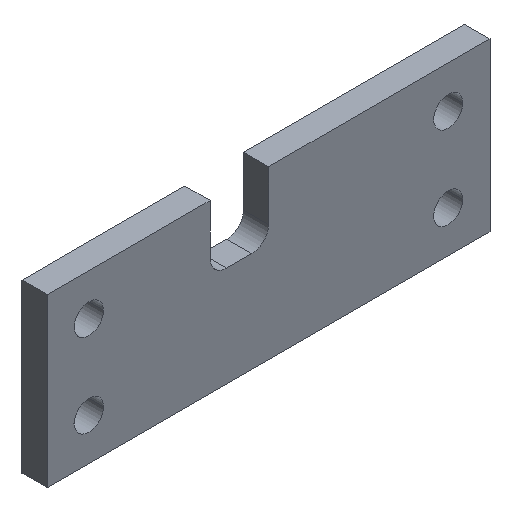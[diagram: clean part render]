
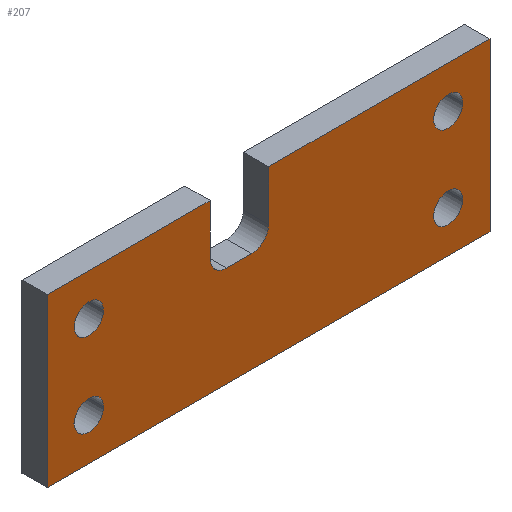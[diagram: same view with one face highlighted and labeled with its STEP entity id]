
A CAD part, isometric view. The second image highlights one B-rep face of the part: STEP entity #207.
In plain terms, the highlighted planar face has unit normal (0, -1, 0).
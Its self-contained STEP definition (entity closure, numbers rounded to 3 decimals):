
#35=AXIS2_PLACEMENT_3D('Plane Axis2P3D',#32,#33,#34) ;
#39=AXIS2_PLACEMENT_3D('Circle Axis2P3D',#37,#38,$) ;
#111=AXIS2_PLACEMENT_3D('Circle Axis2P3D',#109,#110,$) ;
#137=AXIS2_PLACEMENT_3D('Circle Axis2P3D',#135,#136,$) ;
#146=AXIS2_PLACEMENT_3D('Circle Axis2P3D',#144,#145,$) ;
#155=AXIS2_PLACEMENT_3D('Circle Axis2P3D',#153,#154,$) ;
#164=AXIS2_PLACEMENT_3D('Circle Axis2P3D',#162,#163,$) ;
#173=AXIS2_PLACEMENT_3D('Circle Axis2P3D',#171,#172,$) ;
#182=AXIS2_PLACEMENT_3D('Circle Axis2P3D',#180,#181,$) ;
#191=AXIS2_PLACEMENT_3D('Circle Axis2P3D',#189,#190,$) ;
#200=AXIS2_PLACEMENT_3D('Circle Axis2P3D',#198,#199,$) ;
#32=CARTESIAN_POINT('Axis2P3D Location',(0.,39.6,0.)) ;
#37=CARTESIAN_POINT('Axis2P3D Location',(-21.5,39.6,14.)) ;
#41=CARTESIAN_POINT('Vertex',(-21.5,39.6,12.)) ;
#43=CARTESIAN_POINT('Vertex',(-23.5,39.6,14.)) ;
#46=CARTESIAN_POINT('Line Origine',(-23.5,39.6,17.)) ;
#50=CARTESIAN_POINT('Vertex',(-23.5,39.6,20.)) ;
#53=CARTESIAN_POINT('Line Origine',(-27.25,39.6,20.)) ;
#57=CARTESIAN_POINT('Vertex',(-31.,39.6,20.)) ;
#60=CARTESIAN_POINT('Line Origine',(-37.,39.6,20.)) ;
#64=CARTESIAN_POINT('Vertex',(-43.,39.6,20.)) ;
#67=CARTESIAN_POINT('Line Origine',(-43.,39.6,10.)) ;
#71=CARTESIAN_POINT('Vertex',(-43.,39.6,0.)) ;
#74=CARTESIAN_POINT('Line Origine',(-16.5,39.6,0.)) ;
#78=CARTESIAN_POINT('Vertex',(10.,39.6,0.)) ;
#81=CARTESIAN_POINT('Line Origine',(10.,39.6,10.)) ;
#85=CARTESIAN_POINT('Vertex',(10.,39.6,20.)) ;
#88=CARTESIAN_POINT('Line Origine',(0.5,39.6,20.)) ;
#92=CARTESIAN_POINT('Vertex',(-9.,39.6,20.)) ;
#95=CARTESIAN_POINT('Line Origine',(-12.75,39.6,20.)) ;
#99=CARTESIAN_POINT('Vertex',(-16.5,39.6,20.)) ;
#102=CARTESIAN_POINT('Line Origine',(-16.5,39.6,17.)) ;
#106=CARTESIAN_POINT('Vertex',(-16.5,39.6,14.)) ;
#109=CARTESIAN_POINT('Axis2P3D Location',(-18.5,39.6,14.)) ;
#113=CARTESIAN_POINT('Vertex',(-18.5,39.6,12.)) ;
#116=CARTESIAN_POINT('Line Origine',(-20.,39.6,12.)) ;
#135=CARTESIAN_POINT('Axis2P3D Location',(-38.,39.6,15.)) ;
#139=CARTESIAN_POINT('Vertex',(-36.25,39.6,15.)) ;
#141=CARTESIAN_POINT('Vertex',(-39.75,39.6,15.)) ;
#144=CARTESIAN_POINT('Axis2P3D Location',(-38.,39.6,15.)) ;
#153=CARTESIAN_POINT('Axis2P3D Location',(5.,39.6,5.)) ;
#157=CARTESIAN_POINT('Vertex',(6.75,39.6,5.)) ;
#159=CARTESIAN_POINT('Vertex',(3.25,39.6,5.)) ;
#162=CARTESIAN_POINT('Axis2P3D Location',(5.,39.6,5.)) ;
#171=CARTESIAN_POINT('Axis2P3D Location',(-38.,39.6,5.)) ;
#175=CARTESIAN_POINT('Vertex',(-39.75,39.6,5.)) ;
#177=CARTESIAN_POINT('Vertex',(-36.25,39.6,5.)) ;
#180=CARTESIAN_POINT('Axis2P3D Location',(-38.,39.6,5.)) ;
#189=CARTESIAN_POINT('Axis2P3D Location',(5.,39.6,15.)) ;
#193=CARTESIAN_POINT('Vertex',(6.75,39.6,15.)) ;
#195=CARTESIAN_POINT('Vertex',(3.25,39.6,15.)) ;
#198=CARTESIAN_POINT('Axis2P3D Location',(5.,39.6,15.)) ;
#33=DIRECTION('Axis2P3D Direction',(0.,-1.,0.)) ;
#34=DIRECTION('Axis2P3D XDirection',(1.,0.,0.)) ;
#38=DIRECTION('Axis2P3D Direction',(0.,-1.,0.)) ;
#47=DIRECTION('Vector Direction',(0.,0.,-1.)) ;
#54=DIRECTION('Vector Direction',(1.,0.,0.)) ;
#61=DIRECTION('Vector Direction',(1.,0.,0.)) ;
#68=DIRECTION('Vector Direction',(0.,0.,-1.)) ;
#75=DIRECTION('Vector Direction',(1.,0.,0.)) ;
#82=DIRECTION('Vector Direction',(0.,0.,-1.)) ;
#89=DIRECTION('Vector Direction',(1.,0.,0.)) ;
#96=DIRECTION('Vector Direction',(1.,0.,0.)) ;
#103=DIRECTION('Vector Direction',(0.,0.,1.)) ;
#110=DIRECTION('Axis2P3D Direction',(0.,-1.,0.)) ;
#117=DIRECTION('Vector Direction',(-1.,0.,0.)) ;
#136=DIRECTION('Axis2P3D Direction',(0.,-1.,0.)) ;
#145=DIRECTION('Axis2P3D Direction',(0.,-1.,0.)) ;
#154=DIRECTION('Axis2P3D Direction',(0.,-1.,0.)) ;
#163=DIRECTION('Axis2P3D Direction',(0.,-1.,0.)) ;
#172=DIRECTION('Axis2P3D Direction',(0.,-1.,0.)) ;
#181=DIRECTION('Axis2P3D Direction',(0.,-1.,0.)) ;
#190=DIRECTION('Axis2P3D Direction',(0.,-1.,0.)) ;
#199=DIRECTION('Axis2P3D Direction',(0.,-1.,0.)) ;
#48=VECTOR('Line Direction',#47,1.) ;
#55=VECTOR('Line Direction',#54,1.) ;
#62=VECTOR('Line Direction',#61,1.) ;
#69=VECTOR('Line Direction',#68,1.) ;
#76=VECTOR('Line Direction',#75,1.) ;
#83=VECTOR('Line Direction',#82,1.) ;
#90=VECTOR('Line Direction',#89,1.) ;
#97=VECTOR('Line Direction',#96,1.) ;
#104=VECTOR('Line Direction',#103,1.) ;
#118=VECTOR('Line Direction',#117,1.) ;
#122=ORIENTED_EDGE('',*,*,#45,.T.) ;
#123=ORIENTED_EDGE('',*,*,#52,.F.) ;
#124=ORIENTED_EDGE('',*,*,#59,.F.) ;
#125=ORIENTED_EDGE('',*,*,#66,.F.) ;
#126=ORIENTED_EDGE('',*,*,#73,.T.) ;
#127=ORIENTED_EDGE('',*,*,#80,.T.) ;
#128=ORIENTED_EDGE('',*,*,#87,.F.) ;
#129=ORIENTED_EDGE('',*,*,#94,.F.) ;
#130=ORIENTED_EDGE('',*,*,#101,.F.) ;
#131=ORIENTED_EDGE('',*,*,#108,.F.) ;
#132=ORIENTED_EDGE('',*,*,#115,.T.) ;
#133=ORIENTED_EDGE('',*,*,#120,.F.) ;
#150=ORIENTED_EDGE('',*,*,#143,.F.) ;
#151=ORIENTED_EDGE('',*,*,#148,.F.) ;
#168=ORIENTED_EDGE('',*,*,#161,.F.) ;
#169=ORIENTED_EDGE('',*,*,#166,.F.) ;
#186=ORIENTED_EDGE('',*,*,#179,.F.) ;
#187=ORIENTED_EDGE('',*,*,#184,.F.) ;
#204=ORIENTED_EDGE('',*,*,#197,.F.) ;
#205=ORIENTED_EDGE('',*,*,#202,.F.) ;
#152=FACE_BOUND('',#149,.T.) ;
#170=FACE_BOUND('',#167,.T.) ;
#188=FACE_BOUND('',#185,.T.) ;
#206=FACE_BOUND('',#203,.T.) ;
#207=ADVANCED_FACE('\X2\96F64EF651E04F554F53\X0\',(#134,#152,#170,#188,#206),#36,.T.) ;
#40=CIRCLE('generated circle',#39,2.) ;
#112=CIRCLE('generated circle',#111,2.) ;
#138=CIRCLE('generated circle',#137,1.75) ;
#147=CIRCLE('generated circle',#146,1.75) ;
#156=CIRCLE('generated circle',#155,1.75) ;
#165=CIRCLE('generated circle',#164,1.75) ;
#174=CIRCLE('generated circle',#173,1.75) ;
#183=CIRCLE('generated circle',#182,1.75) ;
#192=CIRCLE('generated circle',#191,1.75) ;
#201=CIRCLE('generated circle',#200,1.75) ;
#45=EDGE_CURVE('',#42,#44,#40,.F.) ;
#52=EDGE_CURVE('',#51,#44,#49,.T.) ;
#59=EDGE_CURVE('',#58,#51,#56,.T.) ;
#66=EDGE_CURVE('',#65,#58,#63,.T.) ;
#73=EDGE_CURVE('',#65,#72,#70,.T.) ;
#80=EDGE_CURVE('',#72,#79,#77,.T.) ;
#87=EDGE_CURVE('',#86,#79,#84,.T.) ;
#94=EDGE_CURVE('',#93,#86,#91,.T.) ;
#101=EDGE_CURVE('',#100,#93,#98,.T.) ;
#108=EDGE_CURVE('',#107,#100,#105,.T.) ;
#115=EDGE_CURVE('',#107,#114,#112,.F.) ;
#120=EDGE_CURVE('',#42,#114,#119,.F.) ;
#143=EDGE_CURVE('',#140,#142,#138,.T.) ;
#148=EDGE_CURVE('',#142,#140,#147,.T.) ;
#161=EDGE_CURVE('',#158,#160,#156,.T.) ;
#166=EDGE_CURVE('',#160,#158,#165,.T.) ;
#179=EDGE_CURVE('',#176,#178,#174,.T.) ;
#184=EDGE_CURVE('',#178,#176,#183,.T.) ;
#197=EDGE_CURVE('',#194,#196,#192,.T.) ;
#202=EDGE_CURVE('',#196,#194,#201,.T.) ;
#121=EDGE_LOOP('',(#122,#123,#124,#125,#126,#127,#128,#129,#130,#131,#132,#133)) ;
#149=EDGE_LOOP('',(#150,#151)) ;
#167=EDGE_LOOP('',(#168,#169)) ;
#185=EDGE_LOOP('',(#186,#187)) ;
#203=EDGE_LOOP('',(#204,#205)) ;
#134=FACE_OUTER_BOUND('',#121,.T.) ;
#49=LINE('Line',#46,#48) ;
#56=LINE('Line',#53,#55) ;
#63=LINE('Line',#60,#62) ;
#70=LINE('Line',#67,#69) ;
#77=LINE('Line',#74,#76) ;
#84=LINE('Line',#81,#83) ;
#91=LINE('Line',#88,#90) ;
#98=LINE('Line',#95,#97) ;
#105=LINE('Line',#102,#104) ;
#119=LINE('Line',#116,#118) ;
#36=PLANE('',#35) ;
#42=VERTEX_POINT('',#41) ;
#44=VERTEX_POINT('',#43) ;
#51=VERTEX_POINT('',#50) ;
#58=VERTEX_POINT('',#57) ;
#65=VERTEX_POINT('',#64) ;
#72=VERTEX_POINT('',#71) ;
#79=VERTEX_POINT('',#78) ;
#86=VERTEX_POINT('',#85) ;
#93=VERTEX_POINT('',#92) ;
#100=VERTEX_POINT('',#99) ;
#107=VERTEX_POINT('',#106) ;
#114=VERTEX_POINT('',#113) ;
#140=VERTEX_POINT('',#139) ;
#142=VERTEX_POINT('',#141) ;
#158=VERTEX_POINT('',#157) ;
#160=VERTEX_POINT('',#159) ;
#176=VERTEX_POINT('',#175) ;
#178=VERTEX_POINT('',#177) ;
#194=VERTEX_POINT('',#193) ;
#196=VERTEX_POINT('',#195) ;
